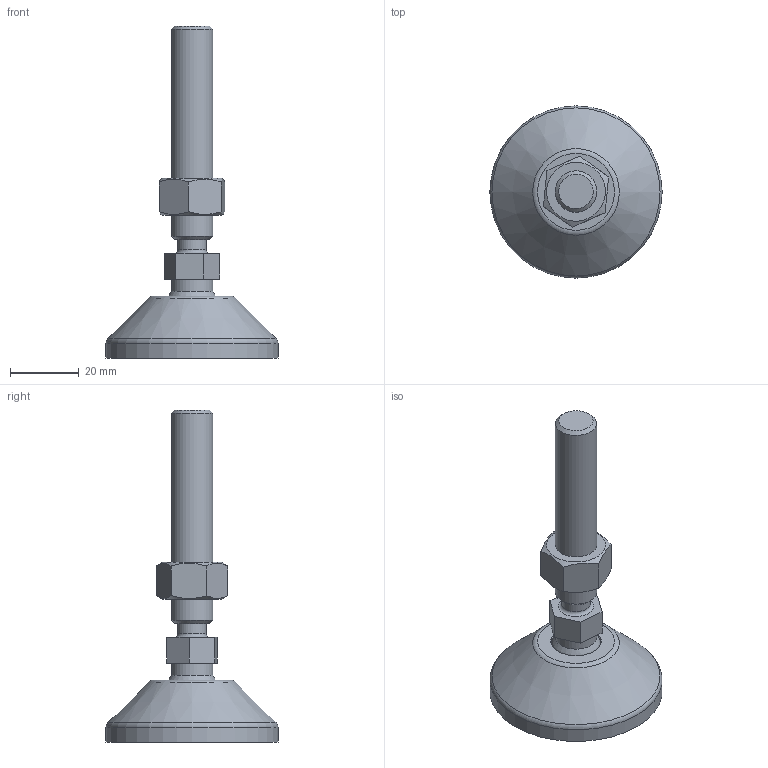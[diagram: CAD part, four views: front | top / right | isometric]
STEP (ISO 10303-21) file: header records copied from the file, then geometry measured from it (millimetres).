
FILE_DESCRIPTION(('STEP AP203'), '1');
FILE_NAME('栖闉罻', '', ('UNSPECIFIED'), ('UNSPECIFIED'), 'C3D Converter', 'C3D Toolkit', '');
FILE_SCHEMA(('CONFIG_CONTROL_DESIGN'));
Length unit declared in the file: millimetre
Products named in the file (4): A00015.1050; A00020.112066
Assembly tree (3 placements, depth 3):
  (unnamed)
    A00015.1050
    A00020.112066
      (unnamed)
Bounding box: 50 x 50 x 96.4 mm (x, y, z)
Volume: 27871 mm3; surface area: 12883.1 mm2
Topology: 3 solids, 3 shells, 177 faces, 476 edges, 318 vertices
Faces by surface type: plane 87, cylinder 50, torus 30, cone 8, sphere 2
Full cylindrical faces by diameter (mm): 4 x8, 8.3 x1, 10.647 x1, 12 x2, 14.3 x1, 15 x2, 15.5 x1, 39 x1, 50 x1
Entity records: 8951 total; most frequent: CARTESIAN_POINT 2983, DIRECTION 920, ORIENTED_EDGE 882, EDGE_CURVE 441, AXIS2_PLACEMENT_3D 376, VERTEX_POINT 317, EDGE_LOOP 226, CIRCLE 195
